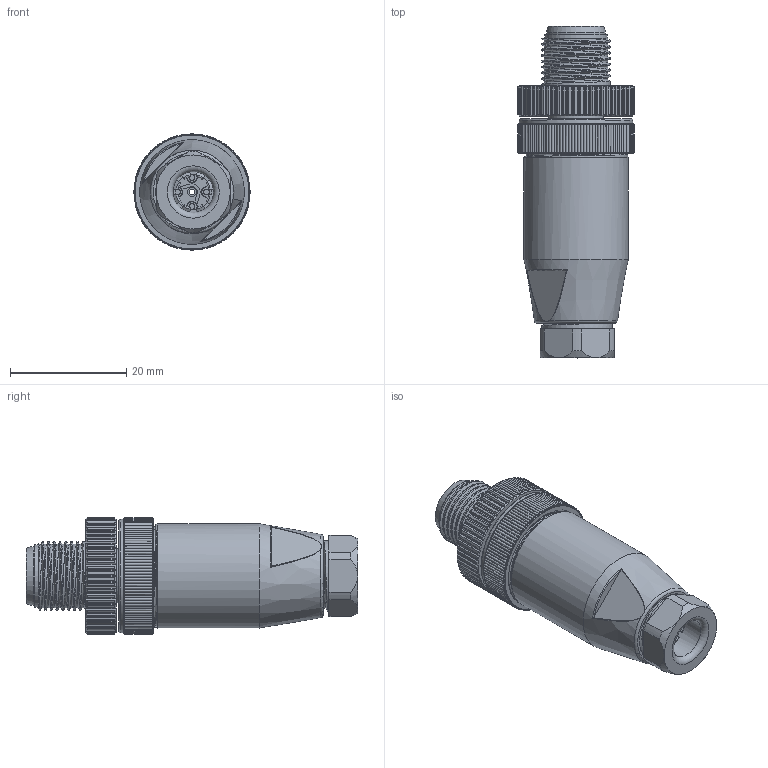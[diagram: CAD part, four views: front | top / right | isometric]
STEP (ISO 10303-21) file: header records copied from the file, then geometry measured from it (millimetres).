
FILE_DESCRIPTION(/* description */ (''),/* implementation_level */ '2;1');
FILE_NAME(/* name */ 'M12D-4MS-PG7.stp',/* time_stamp */ '2024-08-14T14:03:09+08:00',/* author */ (''),/* organization */ (''),/* preprocessor_version */ 'ST-DEVELOPER v16.7',/* originating_system */ 'SIEMENS PLM Software NX 12.0',/* authorisation */ '');
FILE_SCHEMA (('AP203_CONFIGURATION_CONTROLLED_3D_DESIGN_OF_MECHANICAL_PARTS_AND_ASSEMBLIES_MIM_LF { 1 0 10303 403 2 1 2}'));
Products named in the file (1): lyj280CC4F66wnl
Bounding box: 20 x 57.18 x 20 mm (x, y, z)
Volume: 7724.1 mm3; surface area: 11138.3 mm2
Topology: 1 solids, 13 shells, 1290 faces, 3166 edges, 1945 vertices
Faces by surface type: cylinder 422, cone 400, plane 359, bspline 57, extrusion 25, torus 21, sphere 6
Full cylindrical faces by diameter (mm): 1 x13, 1.2 x8, 1.4 x4, 1.5 x13, 2 x4, 2.2 x4, 6.2 x1, 6.8 x1, 7 x1, 8.3 x1, 8.6 x1, 9.4 x1, 9.8 x1, 10.2 x1, 10.8 x1, 11.6 x1, 12.5 x9, 13.8 x1, 14.3 x1, 14.4 x1, 14.7 x1, 15 x1, 15.8 x1, 16.7 x1, 18 x1, 19.6 x1
Entity records: 62832 total; most frequent: CARTESIAN_POINT 34480, ORIENTED_EDGE 5984, DIRECTION 5592, EDGE_CURVE 2992, AXIS2_PLACEMENT_3D 2292, VERTEX_POINT 1873, EDGE_LOOP 1455, ADVANCED_FACE 1280
